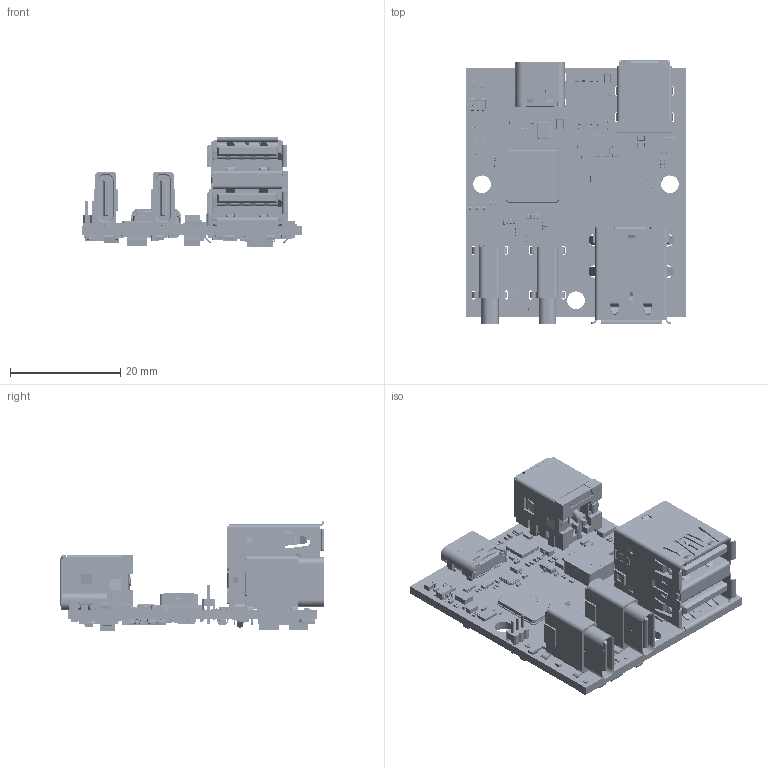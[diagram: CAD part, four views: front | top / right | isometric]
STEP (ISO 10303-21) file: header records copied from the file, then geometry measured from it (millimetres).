
FILE_DESCRIPTION(/* description */ ('Open CASCADE Model','CAx-IF Rec.Pracs.---Representation and Presentation of Product Manufacturing Information (PMI)---4.0---2014-10-13'),/* implementation_level */ '2;1');
FILE_NAME(/* name */ 'CG-822Q8X2CX2AX1C_PD v1.step',/* time_stamp */ '2025-03-20T14:02:39-04:00',/* author */ (''),/* organization */ (''),/* preprocessor_version */ 'ST-DEVELOPER v20',/* originating_system */ 'Autodesk Translation Framework v13.20.0.188',/* authorisation */ '');
FILE_SCHEMA (('AP242_MANAGED_MODEL_BASED_3D_ENGINEERING_MIM_LF { 1 0 10303 442 1 1 4 }'));
Products named in the file (400): PCB; BoardCG-822Q8X2CX2AX1C_PD; Open CASCADE STEP translator 7.5 3.1.1; U6CG-822Q8X2CX2AX1C_PD; 6524745264; Extruded; 6523964688; Cylinder; R48CG-822Q8X2CX2AX1C_PD; R45CG-822Q8X2CX2AX1C_PD; C54CG-822Q8X2CX2AX1C_PD; C47CG-822Q8X2CX2AX1C_PD; R71BCG-822Q8X2CX2AX1C_PD; R71ACG-822Q8X2CX2AX1C_PD; R70BCG-822Q8X2CX2AX1C_PD; R70ACG-822Q8X2CX2AX1C_PD; R63BCG-822Q8X2CX2AX1C_PD; R63ACG-822Q8X2CX2AX1C_PD; Q8BCG-822Q8X2CX2AX1C_PD; Q8ACG-822Q8X2CX2AX1C_PD; C72ACG-822Q8X2CX2AX1C_PD; C73BCG-822Q8X2CX2AX1C_PD; C76ACG-822Q8X2CX2AX1C_PD; C77BCG-822Q8X2CX2AX1C_PD; ESD17CG-822Q8X2CX2AX1C_PD; ESD16CG-822Q8X2CX2AX1C_PD; ESD15CG-822Q8X2CX2AX1C_PD; ESD14CG-822Q8X2CX2AX1C_PD; R16CG-822Q8X2CX2AX1C_PD; J2CG-822Q8X2CX2AX1C_PD; User Library-DS1031-01-1x3P8BV3-1; HousingBody; Pin1Body; Pin2Body; Pin3Body; U3CG-822Q8X2CX2AX1C_PD; U9DCG-822Q8X2CX2AX1C_PD; U9CCG-822Q8X2CX2AX1C_PD; R62DCG-822Q8X2CX2AX1C_PD; R62CCG-822Q8X2CX2AX1C_PD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
Assembly tree (656 placements, depth 6):
  PCB
    BoardCG-822Q8X2CX2AX1C_PD
      Open CASCADE STEP translator 7.5 3.1.1
    U6CG-822Q8X2CX2AX1C_PD
      6524745264
        Extruded
      6523964688
        Cylinder
    R48CG-822Q8X2CX2AX1C_PD
      User Library-User Library-0201_Res
    R45CG-822Q8X2CX2AX1C_PD
      RES0402-2
    C54CG-822Q8X2CX2AX1C_PD
      User Library-cap_0805_lowprofile
    C47CG-822Q8X2CX2AX1C_PD
      CAPC0603
    R71BCG-822Q8X2CX2AX1C_PD
      User Library-User Library-0201_Res
    R71ACG-822Q8X2CX2AX1C_PD
      User Library-User Library-0201_Res
    R70BCG-822Q8X2CX2AX1C_PD
      User Library-User Library-0201_Res
    R70ACG-822Q8X2CX2AX1C_PD
      User Library-User Library-0201_Res
    R63BCG-822Q8X2CX2AX1C_PD
      User Library-User Library-0201_Res
    R63ACG-822Q8X2CX2AX1C_PD
      User Library-User Library-0201_Res
    Q8BCG-822Q8X2CX2AX1C_PD
      User Library-SOT323 (SC70-3)-1
        K_X_F6rper_1
        Beschriftung_1
        Pins_1  x3
    Q8ACG-822Q8X2CX2AX1C_PD
      User Library-SOT323 (SC70-3)-1
        K_X_F6rper_1
        Beschriftung_1
        Pins_1  x3
    C72ACG-822Q8X2CX2AX1C_PD
      CAP 0201
    C73BCG-822Q8X2CX2AX1C_PD
      CAP 0201
    C76ACG-822Q8X2CX2AX1C_PD
      CAP 0201
    C77BCG-822Q8X2CX2AX1C_PD
      CAP 0201
    ESD17CG-822Q8X2CX2AX1C_PD
      6298930112
        Body_1
        Pins_2
    ESD16CG-822Q8X2CX2AX1C_PD
      6298930112
        Body_1
        Pins_2
    ESD15CG-822Q8X2CX2AX1C_PD
      6298930112
        Body_1
        Pins_2
    ESD14CG-822Q8X2CX2AX1C_PD
      6298930112
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Bounding box: 40 x 47.79 x 20.09 mm (x, y, z)
Volume: 7340.7 mm3; surface area: 13997.1 mm2
Topology: 922 solids, 926 shells, 44127 faces, 110144 edges, 68255 vertices
Faces by surface type: plane 20258, bspline 11971, cylinder 8778, sphere 2497, torus 553, cone 70
Full cylindrical faces by diameter (mm): 0.1 x1, 0.2 x4, 0.3 x1, 0.55 x2, 0.6 x1, 0.65 x8, 0.7 x18, 0.8 x2, 1 x4, 1.2 x4, 1.35 x1, 1.7 x1, 1.9 x1, 2 x1, 2.032 x6, 2.3 x4, 2.4 x1, 2.5 x1, 2.7 x2, 2.8 x2, 2.85 x2, 3.2 x3, 5.1 x2
Entity records: 288302 total; most frequent: CARTESIAN_POINT 80534, ORIENTED_EDGE 42243, DIRECTION 38144, EDGE_CURVE 21127, LINE 15716, VECTOR 15716, VERTEX_POINT 13694, AXIS2_PLACEMENT_3D 11214
